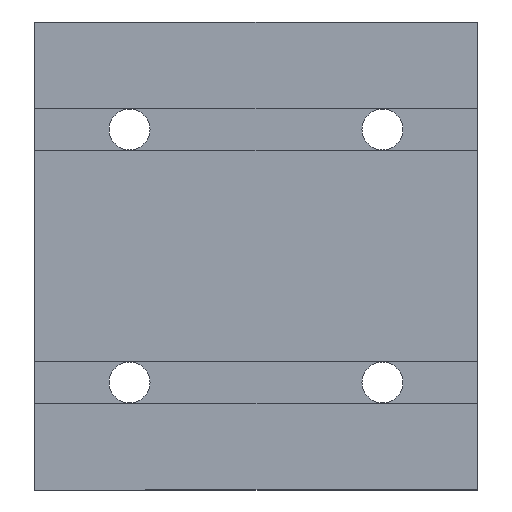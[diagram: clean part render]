
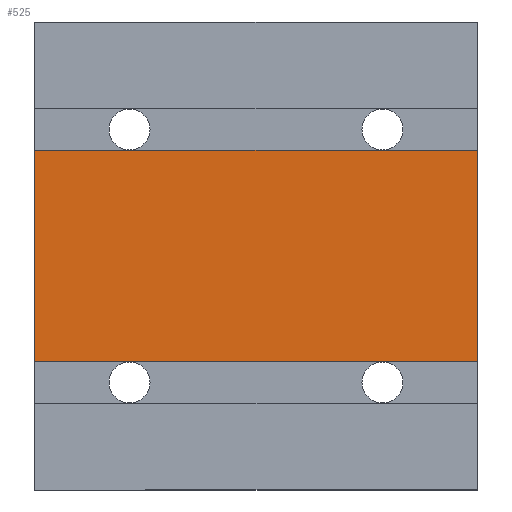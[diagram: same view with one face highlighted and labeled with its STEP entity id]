
A CAD part, front view. The second image highlights one B-rep face of the part: STEP entity #525.
In plain terms, the highlighted planar face has unit normal (0, -1, 0).
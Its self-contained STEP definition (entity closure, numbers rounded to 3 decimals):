
#4 = DIRECTION ( 'NONE',  ( 1., 0., 0. ) ) ;
#13 = CARTESIAN_POINT ( 'NONE',  ( -80., 0., 37. ) ) ;
#41 = LINE ( 'NONE', #426, #446 ) ;
#66 = VERTEX_POINT ( 'NONE', #107 ) ;
#73 = ORIENTED_EDGE ( 'NONE', *, *, #540, .F. ) ;
#102 = CARTESIAN_POINT ( 'NONE',  ( -86.801, 0., -16.75 ) ) ;
#107 = CARTESIAN_POINT ( 'NONE',  ( -10., 0., -16.75 ) ) ;
#115 = VECTOR ( 'NONE', #4, 1000. ) ;
#120 = DIRECTION ( 'NONE',  ( 0., 0., 1. ) ) ;
#126 = CARTESIAN_POINT ( 'NONE',  ( -10., 0., 16.75 ) ) ;
#162 = CARTESIAN_POINT ( 'NONE',  ( -10., 0., -37. ) ) ;
#177 = EDGE_LOOP ( 'NONE', ( #453, #73, #810, #419 ) ) ;
#178 = CARTESIAN_POINT ( 'NONE',  ( 0., 0., 0. ) ) ;
#248 = EDGE_CURVE ( 'NONE', #832, #66, #579, .T. ) ;
#251 = EDGE_CURVE ( 'NONE', #66, #424, #797, .T. ) ;
#345 = CARTESIAN_POINT ( 'NONE',  ( -80., 0., 16.75 ) ) ;
#407 = DIRECTION ( 'NONE',  ( 1., 0., 0. ) ) ;
#419 = ORIENTED_EDGE ( 'NONE', *, *, #248, .T. ) ;
#424 = VERTEX_POINT ( 'NONE', #126 ) ;
#426 = CARTESIAN_POINT ( 'NONE',  ( -86.801, 0., 16.75 ) ) ;
#433 = EDGE_CURVE ( 'NONE', #832, #437, #913, .T. ) ;
#437 = VERTEX_POINT ( 'NONE', #345 ) ;
#446 = VECTOR ( 'NONE', #407, 1000. ) ;
#453 = ORIENTED_EDGE ( 'NONE', *, *, #251, .T. ) ;
#525 = ADVANCED_FACE ( 'NONE', ( #534 ), #1030, .T. ) ;
#534 = FACE_OUTER_BOUND ( 'NONE', #177, .T. ) ;
#540 = EDGE_CURVE ( 'NONE', #437, #424, #41, .T. ) ;
#579 = LINE ( 'NONE', #102, #115 ) ;
#705 = VECTOR ( 'NONE', #120, 1000. ) ;
#767 = VECTOR ( 'NONE', #1014, 1000. ) ;
#797 = LINE ( 'NONE', #162, #767 ) ;
#810 = ORIENTED_EDGE ( 'NONE', *, *, #433, .F. ) ;
#832 = VERTEX_POINT ( 'NONE', #996 ) ;
#913 = LINE ( 'NONE', #13, #705 ) ;
#996 = CARTESIAN_POINT ( 'NONE',  ( -80., 0., -16.75 ) ) ;
#1014 = DIRECTION ( 'NONE',  ( 0., 0., 1. ) ) ;
#1017 = DIRECTION ( 'NONE',  ( 0., -1., 0. ) ) ;
#1030 = PLANE ( 'NONE',  #1059 ) ;
#1059 = AXIS2_PLACEMENT_3D ( 'NONE', #178, #1017, #1067 ) ;
#1067 = DIRECTION ( 'NONE',  ( 0., 0., -1. ) ) ;
